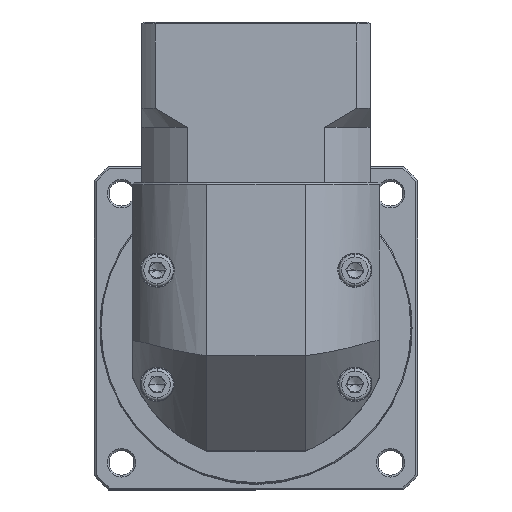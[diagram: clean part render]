
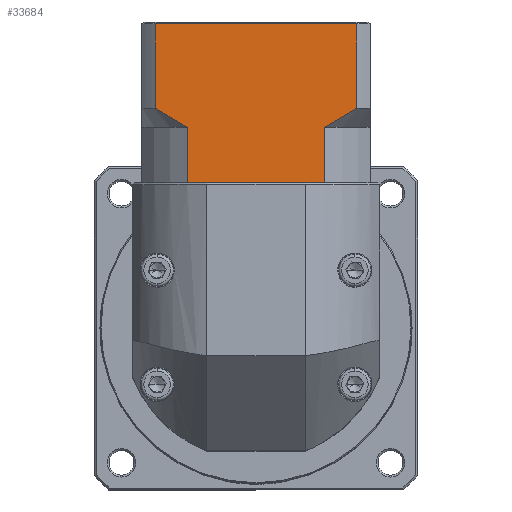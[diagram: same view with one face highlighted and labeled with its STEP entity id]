
A CAD part, top view. The second image highlights one B-rep face of the part: STEP entity #33684.
In plain terms, the highlighted planar face has unit normal (0, 0, 1).
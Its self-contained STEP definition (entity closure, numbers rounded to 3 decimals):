
#490 = ORIENTED_EDGE ( 'NONE', *, *, #49561, .T. ) ;
#4764 = VERTEX_POINT ( 'NONE', #69490 ) ;
#5469 = CARTESIAN_POINT ( 'NONE',  ( -81.947, 107.334, 24.315 ) ) ;
#7088 = B_SPLINE_CURVE_WITH_KNOTS ( 'NONE', 3,
 ( #79797, #100426, #38807, #39703, #133747, #51842 ),
 .UNSPECIFIED., .F., .F.,
 ( 4, 2, 4 ),
 ( 0.052, 0.057, 0.062 ),
 .UNSPECIFIED. ) ;
#8120 = CARTESIAN_POINT ( 'NONE',  ( -37.462, 80.134, 24.315 ) ) ;
#8200 = LINE ( 'NONE', #132766, #25951 ) ;
#9493 = DIRECTION ( 'NONE',  ( 0., 1., 0. ) ) ;
#11665 = DIRECTION ( 'NONE',  ( -1., 0., 0. ) ) ;
#14202 = ORIENTED_EDGE ( 'NONE', *, *, #76407, .F. ) ;
#14534 = DIRECTION ( 'NONE',  ( 1., 0., 0. ) ) ;
#16523 = VERTEX_POINT ( 'NONE', #5469 ) ;
#16539 = EDGE_CURVE ( 'NONE', #4764, #22597, #125669, .T. ) ;
#17597 = DIRECTION ( 'NONE',  ( 0., -1., 0. ) ) ;
#22597 = VERTEX_POINT ( 'NONE', #52738 ) ;
#25202 = EDGE_CURVE ( 'NONE', #82211, #99775, #31725, .T. ) ;
#25951 = VECTOR ( 'NONE', #125025, 1000. ) ;
#26971 = CARTESIAN_POINT ( 'NONE',  ( -85.49, 107.834, 24.315 ) ) ;
#26998 = FACE_OUTER_BOUND ( 'NONE', #41032, .T. ) ;
#31725 = LINE ( 'NONE', #97652, #110574 ) ;
#33591 = CARTESIAN_POINT ( 'NONE',  ( -38.453, 65.634, 24.315 ) ) ;
#33684 = ADVANCED_FACE ( 'NONE', ( #26998 ), #88728, .F. ) ;
#35754 = CARTESIAN_POINT ( 'NONE',  ( -37.462, 80.134, 24.315 ) ) ;
#36334 = VERTEX_POINT ( 'NONE', #89342 ) ;
#36646 = CARTESIAN_POINT ( 'NONE',  ( -37.462, 65.634, 24.315 ) ) ;
#38807 = CARTESIAN_POINT ( 'NONE',  ( -79.209, 83.361, 24.315 ) ) ;
#38862 = CARTESIAN_POINT ( 'NONE',  ( -81.947, 85.134, 24.315 ) ) ;
#39703 = CARTESIAN_POINT ( 'NONE',  ( -76.401, 81.685, 24.315 ) ) ;
#40433 = CARTESIAN_POINT ( 'NONE',  ( -29.032, 80.134, 24.315 ) ) ;
#41032 = EDGE_LOOP ( 'NONE', ( #52954, #52025, #69236, #93255, #14202, #490, #71272, #86257, #46026, #132238 ) ) ;
#41917 = VECTOR ( 'NONE', #11665, 1000. ) ;
#45976 = CARTESIAN_POINT ( 'NONE',  ( -73.518, 65.634, 24.315 ) ) ;
#46026 = ORIENTED_EDGE ( 'NONE', *, *, #64748, .F. ) ;
#46982 = LINE ( 'NONE', #8120, #99964 ) ;
#47017 = CARTESIAN_POINT ( 'NONE',  ( -31.775, 83.359, 24.315 ) ) ;
#49115 = DIRECTION ( 'NONE',  ( 0., 0., -1. ) ) ;
#49561 = EDGE_CURVE ( 'NONE', #75429, #132477, #8200, .T. ) ;
#50111 = DIRECTION ( 'NONE',  ( 0., 1., 0. ) ) ;
#51842 = CARTESIAN_POINT ( 'NONE',  ( -73.518, 80.134, 24.315 ) ) ;
#52025 = ORIENTED_EDGE ( 'NONE', *, *, #87299, .T. ) ;
#52738 = CARTESIAN_POINT ( 'NONE',  ( -29.032, 85.134, 24.315 ) ) ;
#52954 = ORIENTED_EDGE ( 'NONE', *, *, #90592, .F. ) ;
#53011 = EDGE_CURVE ( 'NONE', #92892, #16523, #132825, .T. ) ;
#57707 = CARTESIAN_POINT ( 'NONE',  ( -34.58, 81.684, 24.315 ) ) ;
#58045 = DIRECTION ( 'NONE',  ( 0., 1., 0. ) ) ;
#64748 = EDGE_CURVE ( 'NONE', #4764, #99775, #46982, .T. ) ;
#65304 = LINE ( 'NONE', #40433, #125006 ) ;
#65628 = VERTEX_POINT ( 'NONE', #103051 ) ;
#66342 = CARTESIAN_POINT ( 'NONE',  ( -29.032, 85.134, 24.315 ) ) ;
#69236 = ORIENTED_EDGE ( 'NONE', *, *, #53011, .F. ) ;
#69490 = CARTESIAN_POINT ( 'NONE',  ( -37.462, 80.134, 24.315 ) ) ;
#71272 = ORIENTED_EDGE ( 'NONE', *, *, #123778, .T. ) ;
#72636 = EDGE_CURVE ( 'NONE', #92892, #65628, #7088, .T. ) ;
#74541 = CARTESIAN_POINT ( 'NONE',  ( -85.49, 65.634, 24.315 ) ) ;
#75429 = VERTEX_POINT ( 'NONE', #45976 ) ;
#76376 = VECTOR ( 'NONE', #50111, 1000. ) ;
#76407 = EDGE_CURVE ( 'NONE', #75429, #65628, #111329, .T. ) ;
#77605 = CARTESIAN_POINT ( 'NONE',  ( -30.395, 84.232, 24.315 ) ) ;
#79797 = CARTESIAN_POINT ( 'NONE',  ( -81.947, 85.134, 24.315 ) ) ;
#81069 = CARTESIAN_POINT ( 'NONE',  ( -72.527, 65.634, 24.315 ) ) ;
#82211 = VERTEX_POINT ( 'NONE', #33591 ) ;
#82509 = VECTOR ( 'NONE', #9493, 1000. ) ;
#86257 = ORIENTED_EDGE ( 'NONE', *, *, #25202, .T. ) ;
#87299 = EDGE_CURVE ( 'NONE', #36334, #16523, #91785, .T. ) ;
#88728 = PLANE ( 'NONE',  #125651 ) ;
#89342 = CARTESIAN_POINT ( 'NONE',  ( -29.032, 107.334, 24.315 ) ) ;
#90592 = EDGE_CURVE ( 'NONE', #36334, #22597, #65304, .T. ) ;
#91785 = LINE ( 'NONE', #104346, #41917 ) ;
#92892 = VERTEX_POINT ( 'NONE', #38862 ) ;
#93255 = ORIENTED_EDGE ( 'NONE', *, *, #72636, .T. ) ;
#93913 = VECTOR ( 'NONE', #14534, 1000. ) ;
#97652 = CARTESIAN_POINT ( 'NONE',  ( -85.49, 65.634, 24.315 ) ) ;
#99775 = VERTEX_POINT ( 'NONE', #36646 ) ;
#99964 = VECTOR ( 'NONE', #17597, 1000. ) ;
#100426 = CARTESIAN_POINT ( 'NONE',  ( -80.588, 84.234, 24.315 ) ) ;
#103051 = CARTESIAN_POINT ( 'NONE',  ( -73.518, 80.134, 24.315 ) ) ;
#104346 = CARTESIAN_POINT ( 'NONE',  ( -85.49, 107.334, 24.315 ) ) ;
#110574 = VECTOR ( 'NONE', #130568, 1000. ) ;
#111329 = LINE ( 'NONE', #113083, #82509 ) ;
#112416 = DIRECTION ( 'NONE',  ( 0., -1., 0. ) ) ;
#113047 = CARTESIAN_POINT ( 'NONE',  ( -81.947, 80.134, 24.315 ) ) ;
#113083 = CARTESIAN_POINT ( 'NONE',  ( -73.518, 80.134, 24.315 ) ) ;
#118054 = LINE ( 'NONE', #74541, #93913 ) ;
#119405 = CARTESIAN_POINT ( 'NONE',  ( -36.006, 80.884, 24.315 ) ) ;
#123778 = EDGE_CURVE ( 'NONE', #132477, #82211, #118054, .T. ) ;
#125006 = VECTOR ( 'NONE', #112416, 1000. ) ;
#125025 = DIRECTION ( 'NONE',  ( 1., 0., 0. ) ) ;
#125651 = AXIS2_PLACEMENT_3D ( 'NONE', #26971, #49115, #58045 ) ;
#125669 = B_SPLINE_CURVE_WITH_KNOTS ( 'NONE', 3,
 ( #35754, #119405, #57707, #47017, #77605, #66342 ),
 .UNSPECIFIED., .F., .F.,
 ( 4, 2, 4 ),
 ( 0.1, 0.104, 0.109 ),
 .UNSPECIFIED. ) ;
#130568 = DIRECTION ( 'NONE',  ( 1., 0., 0. ) ) ;
#132238 = ORIENTED_EDGE ( 'NONE', *, *, #16539, .T. ) ;
#132477 = VERTEX_POINT ( 'NONE', #81069 ) ;
#132766 = CARTESIAN_POINT ( 'NONE',  ( -85.49, 65.634, 24.315 ) ) ;
#132825 = LINE ( 'NONE', #113047, #76376 ) ;
#133747 = CARTESIAN_POINT ( 'NONE',  ( -74.97, 80.882, 24.315 ) ) ;
